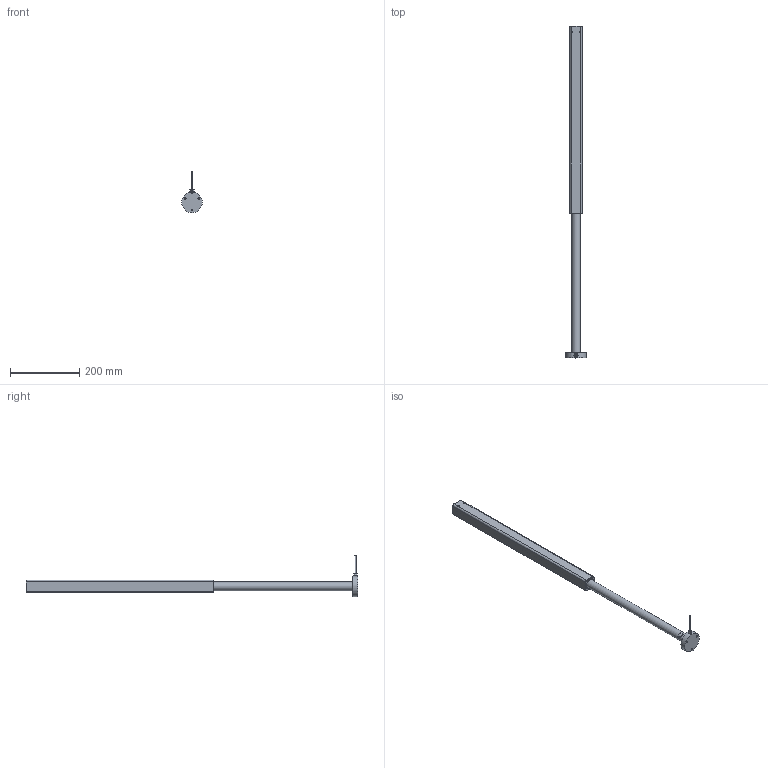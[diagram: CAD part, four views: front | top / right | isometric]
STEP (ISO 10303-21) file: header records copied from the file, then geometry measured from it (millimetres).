
FILE_DESCRIPTION(/* description */ ('Unknown'),/* implementation_level */ '2;1');
FILE_NAME(/* name */ '106.00044 Lineareinheit LD 1440_ausgefahren',/* time_stamp */ '2017-11-07T10:43:31+01:00',/* author */ ('Unknown'),/* organization */ ('Unknown'),/* preprocessor_version */ 'ST-DEVELOPER v16.7',/* originating_system */ 'DEX',/* authorisation */ $);
FILE_SCHEMA (('AUTOMOTIVE_DESIGN {1 0 10303 214 3 1 1}'));
Products named in the file (11): 106.00044; 119.00004; 142.00014; 142.00021; 125.00021; 115.00001; 125.00039; 122.00018; 125.00055; 123.00004; 113.00002_70mm
Assembly tree (11 placements, depth 2):
  106.00044
    119.00004
    142.00014  x2
    142.00021
    125.00021
    115.00001
    125.00039
    122.00018
    125.00055
    123.00004
    113.00002_70mm
Bounding box: 59.5 x 957.25 x 119 mm (x, y, z)
Volume: 416006.3 mm3; surface area: 255756.8 mm2
Topology: 10 solids, 10 shells, 815 faces, 1906 edges, 1139 vertices
Faces by surface type: cylinder 277, bspline 224, plane 222, cone 50, torus 29, sphere 13
Full cylindrical faces by diameter (mm): 2.2 x1, 3.5 x2, 4 x7, 4.1 x1, 4.134 x4, 4.2 x1, 4.917 x3, 6.647 x1, 6.917 x2, 8 x2, 9 x1, 13.9 x2, 17.3 x2, 19 x2, 20.8 x4, 21 x1, 25 x1, 30.63 x1, 59.5 x1
Entity records: 76157 total; most frequent: CARTESIAN_POINT 59524, ORIENTED_EDGE 3520, DIRECTION 2681, EDGE_CURVE 1760, VERTEX_POINT 1084, AXIS2_PLACEMENT_3D 1046, FACE_BOUND 938, EDGE_LOOP 936
